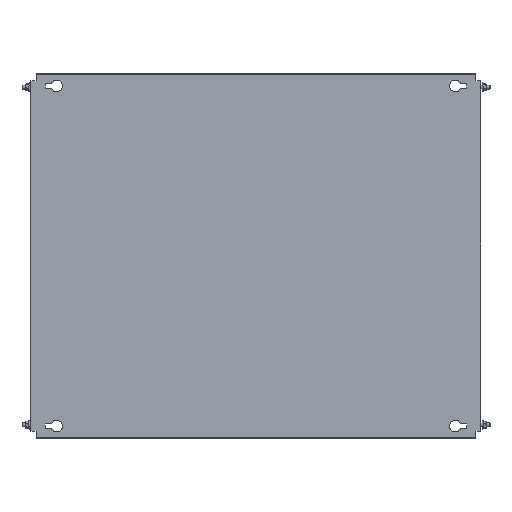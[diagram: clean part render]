
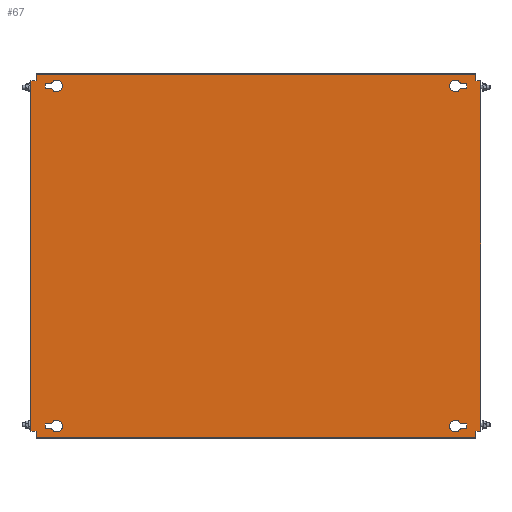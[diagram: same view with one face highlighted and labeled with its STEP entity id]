
A CAD part, top view. The second image highlights one B-rep face of the part: STEP entity #67.
In plain terms, the highlighted planar face has unit normal (0, 0, 1).
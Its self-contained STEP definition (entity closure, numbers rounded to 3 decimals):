
#67 = ADVANCED_FACE('',(#68,#103,#138,#300,#335),#370,.T.);
#68 = FACE_BOUND('',#69,.T.);
#69 = EDGE_LOOP('',(#70,#80,#88,#96));
#70 = ORIENTED_EDGE('',*,*,#71,.T.);
#71 = EDGE_CURVE('',#72,#74,#76,.T.);
#72 = VERTEX_POINT('',#73);
#73 = CARTESIAN_POINT('',(318.393,267.75,2.));
#74 = VERTEX_POINT('',#75);
#75 = CARTESIAN_POINT('',(328.,267.75,2.));
#76 = LINE('',#77,#78);
#77 = CARTESIAN_POINT('',(327.,267.75,2.));
#78 = VECTOR('',#79,1.);
#79 = DIRECTION('',(1.,0.,0.));
#80 = ORIENTED_EDGE('',*,*,#81,.T.);
#81 = EDGE_CURVE('',#74,#82,#84,.T.);
#82 = VERTEX_POINT('',#83);
#83 = CARTESIAN_POINT('',(328.,261.25,2.));
#84 = LINE('',#85,#86);
#85 = CARTESIAN_POINT('',(328.,267.75,2.));
#86 = VECTOR('',#87,1.);
#87 = DIRECTION('',(0.,-1.,0.));
#88 = ORIENTED_EDGE('',*,*,#89,.T.);
#89 = EDGE_CURVE('',#82,#90,#92,.T.);
#90 = VERTEX_POINT('',#91);
#91 = CARTESIAN_POINT('',(318.393,261.25,2.));
#92 = LINE('',#93,#94);
#93 = CARTESIAN_POINT('',(327.,261.25,2.));
#94 = VECTOR('',#95,1.);
#95 = DIRECTION('',(-1.,0.,0.));
#96 = ORIENTED_EDGE('',*,*,#97,.T.);
#97 = EDGE_CURVE('',#90,#72,#98,.T.);
#98 = CIRCLE('',#99,9.);
#99 = AXIS2_PLACEMENT_3D('',#100,#101,#102);
#100 = CARTESIAN_POINT('',(310.,264.5,2.));
#101 = DIRECTION('',(0.,0.,-1.));
#102 = DIRECTION('',(1.,0.,0.));
#103 = FACE_BOUND('',#104,.T.);
#104 = EDGE_LOOP('',(#105,#115,#123,#131));
#105 = ORIENTED_EDGE('',*,*,#106,.T.);
#106 = EDGE_CURVE('',#107,#109,#111,.T.);
#107 = VERTEX_POINT('',#108);
#108 = CARTESIAN_POINT('',(-318.393,-267.75,2.));
#109 = VERTEX_POINT('',#110);
#110 = CARTESIAN_POINT('',(-328.,-267.75,2.));
#111 = LINE('',#112,#113);
#112 = CARTESIAN_POINT('',(-327.,-267.75,2.));
#113 = VECTOR('',#114,1.);
#114 = DIRECTION('',(-1.,0.,0.));
#115 = ORIENTED_EDGE('',*,*,#116,.T.);
#116 = EDGE_CURVE('',#109,#117,#119,.T.);
#117 = VERTEX_POINT('',#118);
#118 = CARTESIAN_POINT('',(-328.,-261.25,2.));
#119 = LINE('',#120,#121);
#120 = CARTESIAN_POINT('',(-328.,-267.75,2.));
#121 = VECTOR('',#122,1.);
#122 = DIRECTION('',(0.,1.,0.));
#123 = ORIENTED_EDGE('',*,*,#124,.T.);
#124 = EDGE_CURVE('',#117,#125,#127,.T.);
#125 = VERTEX_POINT('',#126);
#126 = CARTESIAN_POINT('',(-318.393,-261.25,2.));
#127 = LINE('',#128,#129);
#128 = CARTESIAN_POINT('',(-327.,-261.25,2.));
#129 = VECTOR('',#130,1.);
#130 = DIRECTION('',(1.,0.,-0.));
#131 = ORIENTED_EDGE('',*,*,#132,.T.);
#132 = EDGE_CURVE('',#125,#107,#133,.T.);
#133 = CIRCLE('',#134,9.);
#134 = AXIS2_PLACEMENT_3D('',#135,#136,#137);
#135 = CARTESIAN_POINT('',(-310.,-264.5,2.));
#136 = DIRECTION('',(0.,0.,-1.));
#137 = DIRECTION('',(-1.,0.,0.));
#138 = FACE_BOUND('',#139,.T.);
#139 = EDGE_LOOP('',(#140,#150,#158,#166,#174,#182,#190,#198,#206,#214,
    #222,#230,#238,#246,#254,#262,#270,#278,#286,#294));
#140 = ORIENTED_EDGE('',*,*,#141,.F.);
#141 = EDGE_CURVE('',#142,#144,#146,.T.);
#142 = VERTEX_POINT('',#143);
#143 = CARTESIAN_POINT('',(-347.4,272.5,2.));
#144 = VERTEX_POINT('',#145);
#145 = CARTESIAN_POINT('',(-342.,272.5,2.));
#146 = LINE('',#147,#148);
#147 = CARTESIAN_POINT('',(-348.,272.5,2.));
#148 = VECTOR('',#149,1.);
#149 = DIRECTION('',(1.,0.,-0.));
#150 = ORIENTED_EDGE('',*,*,#151,.T.);
#151 = EDGE_CURVE('',#142,#152,#154,.T.);
#152 = VERTEX_POINT('',#153);
#153 = CARTESIAN_POINT('',(-350.,272.5,2.));
#154 = LINE('',#155,#156);
#155 = CARTESIAN_POINT('',(-347.4,272.5,2.));
#156 = VECTOR('',#157,1.);
#157 = DIRECTION('',(-1.,0.,0.));
#158 = ORIENTED_EDGE('',*,*,#159,.F.);
#159 = EDGE_CURVE('',#160,#152,#162,.T.);
#160 = VERTEX_POINT('',#161);
#161 = CARTESIAN_POINT('',(-350.,-272.5,2.));
#162 = LINE('',#163,#164);
#163 = CARTESIAN_POINT('',(-350.,-282.5,2.));
#164 = VECTOR('',#165,1.);
#165 = DIRECTION('',(0.,1.,-0.));
#166 = ORIENTED_EDGE('',*,*,#167,.F.);
#167 = EDGE_CURVE('',#168,#160,#170,.T.);
#168 = VERTEX_POINT('',#169);
#169 = CARTESIAN_POINT('',(-347.4,-272.5,2.));
#170 = LINE('',#171,#172);
#171 = CARTESIAN_POINT('',(-342.,-272.5,2.));
#172 = VECTOR('',#173,1.);
#173 = DIRECTION('',(-1.,-0.,-0.));
#174 = ORIENTED_EDGE('',*,*,#175,.T.);
#175 = EDGE_CURVE('',#168,#176,#178,.T.);
#176 = VERTEX_POINT('',#177);
#177 = CARTESIAN_POINT('',(-342.,-272.5,2.));
#178 = LINE('',#179,#180);
#179 = CARTESIAN_POINT('',(-348.,-272.5,2.));
#180 = VECTOR('',#181,1.);
#181 = DIRECTION('',(1.,0.,-0.));
#182 = ORIENTED_EDGE('',*,*,#183,.T.);
#183 = EDGE_CURVE('',#176,#184,#186,.T.);
#184 = VERTEX_POINT('',#185);
#185 = CARTESIAN_POINT('',(-342.,-281.9,2.));
#186 = LINE('',#187,#188);
#187 = CARTESIAN_POINT('',(-342.,282.5,2.));
#188 = VECTOR('',#189,1.);
#189 = DIRECTION('',(0.,-1.,0.));
#190 = ORIENTED_EDGE('',*,*,#191,.T.);
#191 = EDGE_CURVE('',#184,#192,#194,.T.);
#192 = VERTEX_POINT('',#193);
#193 = CARTESIAN_POINT('',(-342.,-282.5,2.));
#194 = LINE('',#195,#196);
#195 = CARTESIAN_POINT('',(-342.,-281.9,2.));
#196 = VECTOR('',#197,1.);
#197 = DIRECTION('',(-0.,-1.,-0.));
#198 = ORIENTED_EDGE('',*,*,#199,.T.);
#199 = EDGE_CURVE('',#192,#200,#202,.T.);
#200 = VERTEX_POINT('',#201);
#201 = CARTESIAN_POINT('',(342.,-282.5,2.));
#202 = LINE('',#203,#204);
#203 = CARTESIAN_POINT('',(342.,-282.5,2.));
#204 = VECTOR('',#205,1.);
#205 = DIRECTION('',(1.,0.,0.));
#206 = ORIENTED_EDGE('',*,*,#207,.F.);
#207 = EDGE_CURVE('',#208,#200,#210,.T.);
#208 = VERTEX_POINT('',#209);
#209 = CARTESIAN_POINT('',(342.,-281.9,2.));
#210 = LINE('',#211,#212);
#211 = CARTESIAN_POINT('',(342.,-282.5,2.));
#212 = VECTOR('',#213,1.);
#213 = DIRECTION('',(0.,-1.,0.));
#214 = ORIENTED_EDGE('',*,*,#215,.T.);
#215 = EDGE_CURVE('',#208,#216,#218,.T.);
#216 = VERTEX_POINT('',#217);
#217 = CARTESIAN_POINT('',(342.,-272.5,2.));
#218 = LINE('',#219,#220);
#219 = CARTESIAN_POINT('',(342.,282.5,2.));
#220 = VECTOR('',#221,1.);
#221 = DIRECTION('',(0.,1.,-0.));
#222 = ORIENTED_EDGE('',*,*,#223,.F.);
#223 = EDGE_CURVE('',#224,#216,#226,.T.);
#224 = VERTEX_POINT('',#225);
#225 = CARTESIAN_POINT('',(347.4,-272.5,2.));
#226 = LINE('',#227,#228);
#227 = CARTESIAN_POINT('',(348.,-272.5,2.));
#228 = VECTOR('',#229,1.);
#229 = DIRECTION('',(-1.,0.,-0.));
#230 = ORIENTED_EDGE('',*,*,#231,.T.);
#231 = EDGE_CURVE('',#224,#232,#234,.T.);
#232 = VERTEX_POINT('',#233);
#233 = CARTESIAN_POINT('',(350.,-272.5,2.));
#234 = LINE('',#235,#236);
#235 = CARTESIAN_POINT('',(347.4,-272.5,2.));
#236 = VECTOR('',#237,1.);
#237 = DIRECTION('',(1.,-0.,0.));
#238 = ORIENTED_EDGE('',*,*,#239,.F.);
#239 = EDGE_CURVE('',#240,#232,#242,.T.);
#240 = VERTEX_POINT('',#241);
#241 = CARTESIAN_POINT('',(350.,272.5,2.));
#242 = LINE('',#243,#244);
#243 = CARTESIAN_POINT('',(350.,-282.5,2.));
#244 = VECTOR('',#245,1.);
#245 = DIRECTION('',(0.,-1.,-0.));
#246 = ORIENTED_EDGE('',*,*,#247,.F.);
#247 = EDGE_CURVE('',#248,#240,#250,.T.);
#248 = VERTEX_POINT('',#249);
#249 = CARTESIAN_POINT('',(347.4,272.5,2.));
#250 = LINE('',#251,#252);
#251 = CARTESIAN_POINT('',(-342.,272.5,2.));
#252 = VECTOR('',#253,1.);
#253 = DIRECTION('',(1.,-0.,0.));
#254 = ORIENTED_EDGE('',*,*,#255,.T.);
#255 = EDGE_CURVE('',#248,#256,#258,.T.);
#256 = VERTEX_POINT('',#257);
#257 = CARTESIAN_POINT('',(342.,272.5,2.));
#258 = LINE('',#259,#260);
#259 = CARTESIAN_POINT('',(348.,272.5,2.));
#260 = VECTOR('',#261,1.);
#261 = DIRECTION('',(-1.,0.,-0.));
#262 = ORIENTED_EDGE('',*,*,#263,.T.);
#263 = EDGE_CURVE('',#256,#264,#266,.T.);
#264 = VERTEX_POINT('',#265);
#265 = CARTESIAN_POINT('',(342.,281.9,2.));
#266 = LINE('',#267,#268);
#267 = CARTESIAN_POINT('',(342.,282.5,2.));
#268 = VECTOR('',#269,1.);
#269 = DIRECTION('',(0.,1.,-0.));
#270 = ORIENTED_EDGE('',*,*,#271,.T.);
#271 = EDGE_CURVE('',#264,#272,#274,.T.);
#272 = VERTEX_POINT('',#273);
#273 = CARTESIAN_POINT('',(342.,282.5,2.));
#274 = LINE('',#275,#276);
#275 = CARTESIAN_POINT('',(342.,281.9,2.));
#276 = VECTOR('',#277,1.);
#277 = DIRECTION('',(-0.,1.,-0.));
#278 = ORIENTED_EDGE('',*,*,#279,.T.);
#279 = EDGE_CURVE('',#272,#280,#282,.T.);
#280 = VERTEX_POINT('',#281);
#281 = CARTESIAN_POINT('',(-342.,282.5,2.));
#282 = LINE('',#283,#284);
#283 = CARTESIAN_POINT('',(-342.,282.5,2.));
#284 = VECTOR('',#285,1.);
#285 = DIRECTION('',(-1.,0.,0.));
#286 = ORIENTED_EDGE('',*,*,#287,.F.);
#287 = EDGE_CURVE('',#288,#280,#290,.T.);
#288 = VERTEX_POINT('',#289);
#289 = CARTESIAN_POINT('',(-342.,281.9,2.));
#290 = LINE('',#291,#292);
#291 = CARTESIAN_POINT('',(-342.,-282.5,2.));
#292 = VECTOR('',#293,1.);
#293 = DIRECTION('',(0.,1.,-0.));
#294 = ORIENTED_EDGE('',*,*,#295,.T.);
#295 = EDGE_CURVE('',#288,#144,#296,.T.);
#296 = LINE('',#297,#298);
#297 = CARTESIAN_POINT('',(-342.,282.5,2.));
#298 = VECTOR('',#299,1.);
#299 = DIRECTION('',(0.,-1.,0.));
#300 = FACE_BOUND('',#301,.T.);
#301 = EDGE_LOOP('',(#302,#312,#320,#328));
#302 = ORIENTED_EDGE('',*,*,#303,.F.);
#303 = EDGE_CURVE('',#304,#306,#308,.T.);
#304 = VERTEX_POINT('',#305);
#305 = CARTESIAN_POINT('',(328.,-261.25,2.));
#306 = VERTEX_POINT('',#307);
#307 = CARTESIAN_POINT('',(318.393,-261.25,2.));
#308 = LINE('',#309,#310);
#309 = CARTESIAN_POINT('',(318.393,-261.25,2.));
#310 = VECTOR('',#311,1.);
#311 = DIRECTION('',(-1.,0.,0.));
#312 = ORIENTED_EDGE('',*,*,#313,.F.);
#313 = EDGE_CURVE('',#314,#304,#316,.T.);
#314 = VERTEX_POINT('',#315);
#315 = CARTESIAN_POINT('',(328.,-267.75,2.));
#316 = LINE('',#317,#318);
#317 = CARTESIAN_POINT('',(328.,-261.25,2.));
#318 = VECTOR('',#319,1.);
#319 = DIRECTION('',(0.,1.,0.));
#320 = ORIENTED_EDGE('',*,*,#321,.F.);
#321 = EDGE_CURVE('',#322,#314,#324,.T.);
#322 = VERTEX_POINT('',#323);
#323 = CARTESIAN_POINT('',(318.393,-267.75,2.));
#324 = LINE('',#325,#326);
#325 = CARTESIAN_POINT('',(327.,-267.75,2.));
#326 = VECTOR('',#327,1.);
#327 = DIRECTION('',(1.,0.,0.));
#328 = ORIENTED_EDGE('',*,*,#329,.F.);
#329 = EDGE_CURVE('',#306,#322,#330,.T.);
#330 = CIRCLE('',#331,9.);
#331 = AXIS2_PLACEMENT_3D('',#332,#333,#334);
#332 = CARTESIAN_POINT('',(310.,-264.5,2.));
#333 = DIRECTION('',(0.,-0.,1.));
#334 = DIRECTION('',(1.,0.,0.));
#335 = FACE_BOUND('',#336,.T.);
#336 = EDGE_LOOP('',(#337,#347,#355,#363));
#337 = ORIENTED_EDGE('',*,*,#338,.F.);
#338 = EDGE_CURVE('',#339,#341,#343,.T.);
#339 = VERTEX_POINT('',#340);
#340 = CARTESIAN_POINT('',(-328.,261.25,2.));
#341 = VERTEX_POINT('',#342);
#342 = CARTESIAN_POINT('',(-318.393,261.25,2.));
#343 = LINE('',#344,#345);
#344 = CARTESIAN_POINT('',(-318.393,261.25,2.));
#345 = VECTOR('',#346,1.);
#346 = DIRECTION('',(1.,0.,0.));
#347 = ORIENTED_EDGE('',*,*,#348,.F.);
#348 = EDGE_CURVE('',#349,#339,#351,.T.);
#349 = VERTEX_POINT('',#350);
#350 = CARTESIAN_POINT('',(-328.,267.75,2.));
#351 = LINE('',#352,#353);
#352 = CARTESIAN_POINT('',(-328.,261.25,2.));
#353 = VECTOR('',#354,1.);
#354 = DIRECTION('',(0.,-1.,0.));
#355 = ORIENTED_EDGE('',*,*,#356,.F.);
#356 = EDGE_CURVE('',#357,#349,#359,.T.);
#357 = VERTEX_POINT('',#358);
#358 = CARTESIAN_POINT('',(-318.393,267.75,2.));
#359 = LINE('',#360,#361);
#360 = CARTESIAN_POINT('',(-327.,267.75,2.));
#361 = VECTOR('',#362,1.);
#362 = DIRECTION('',(-1.,0.,0.));
#363 = ORIENTED_EDGE('',*,*,#364,.F.);
#364 = EDGE_CURVE('',#341,#357,#365,.T.);
#365 = CIRCLE('',#366,9.);
#366 = AXIS2_PLACEMENT_3D('',#367,#368,#369);
#367 = CARTESIAN_POINT('',(-310.,264.5,2.));
#368 = DIRECTION('',(0.,-0.,1.));
#369 = DIRECTION('',(-1.,0.,0.));
#370 = PLANE('',#371);
#371 = AXIS2_PLACEMENT_3D('',#372,#373,#374);
#372 = CARTESIAN_POINT('',(-342.,-282.5,2.));
#373 = DIRECTION('',(-0.,0.,1.));
#374 = DIRECTION('',(1.,0.,0.));
